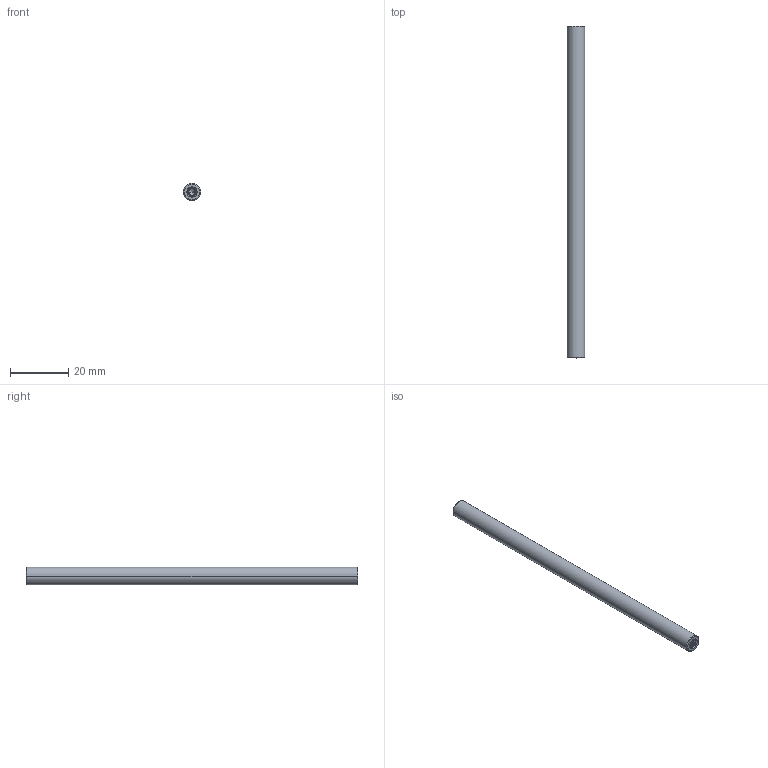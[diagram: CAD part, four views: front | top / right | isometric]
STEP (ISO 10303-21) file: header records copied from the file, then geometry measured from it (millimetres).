
FILE_DESCRIPTION((''),'2;1');
FILE_NAME('PCM-S_114','2021-04-19T',('Administrator'),(''),'CREO PARAMETRIC BY PTC INC, 2015290','CREO PARAMETRIC BY PTC INC, 2015290','');
FILE_SCHEMA(('CONFIG_CONTROL_DESIGN'));
Length unit declared in the file: millimetre
Products named in the file (1): PCM-S_114
Bounding box: 6 x 114 x 6 mm (x, y, z)
Volume: 3129.9 mm3; surface area: 2408.2 mm2
Topology: 1 solids, 1 shells, 93 faces, 253 edges, 160 vertices
Faces by surface type: cylinder 55, bspline 24, cone 12, plane 2
Entity records: 6776 total; most frequent: CARTESIAN_POINT 4755, ORIENTED_EDGE 498, DIRECTION 266, EDGE_CURVE 249, VERTEX_POINT 160, B_SPLINE_CURVE_WITH_KNOTS 141, EDGE_LOOP 95, FACE_OUTER_BOUND 93
